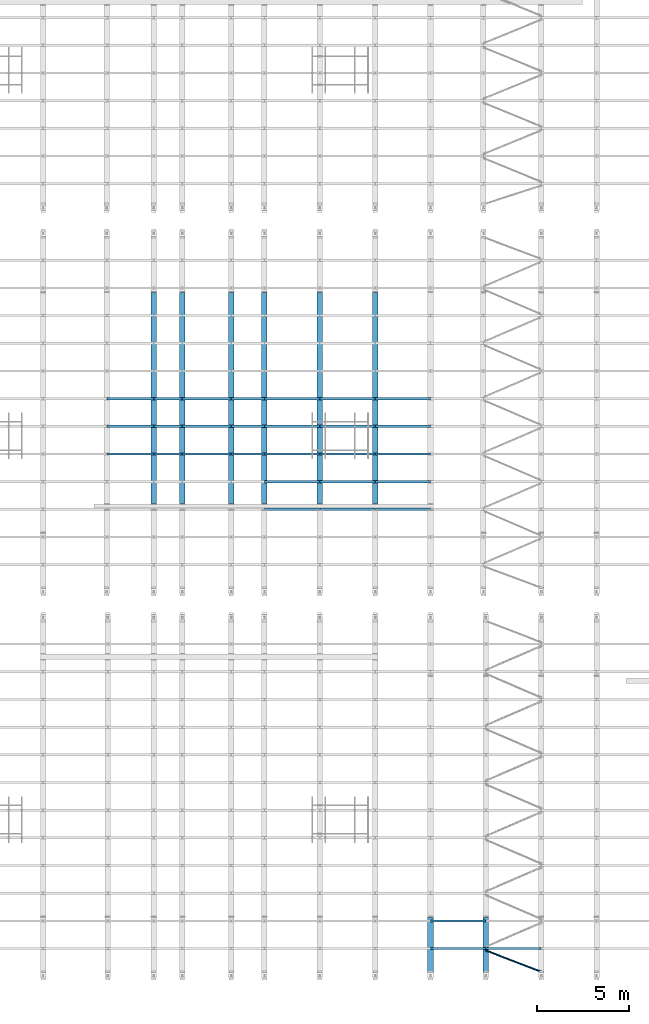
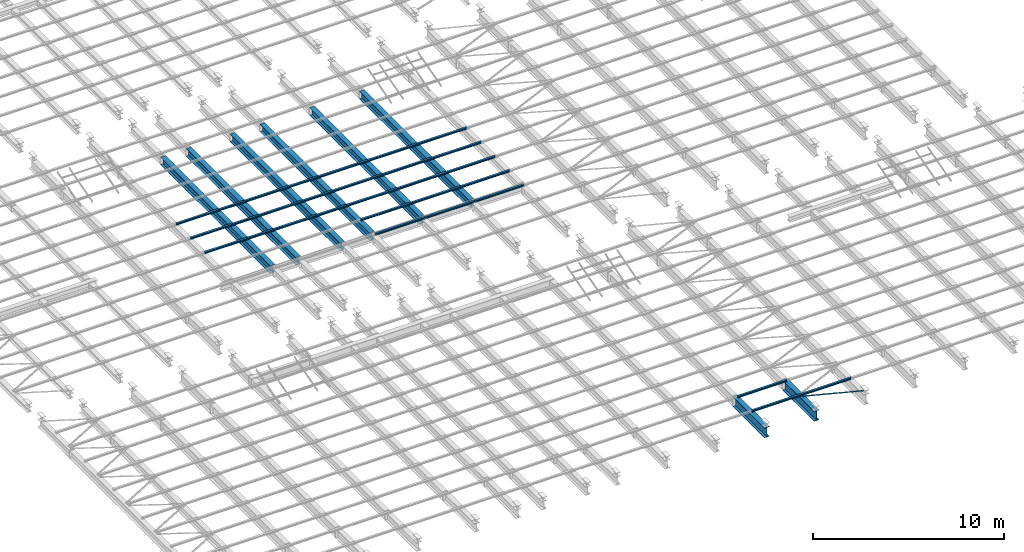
# One storey, part 43 of 139: 39 beams.
"""IFC2X3 building model written with IfcOpenShell, lengths in metres."""

from ifc_helpers import new_model, entity, si_unit, converted_unit, derived_unit, frame, origin, place, context, subcontext, project, spatial, polyline, outline, extrude, material, element, save


model = new_model("IFC2X3")

# Units and contexts
model_context = context("Model", 3, precision=1e-05, world=origin())
body_context = subcontext(model_context, "Body", "Model", "MODEL_VIEW")
ifc_project = project(units=[si_unit("LENGTHUNIT", "METRE"), si_unit("AREAUNIT", "SQUARE_METRE"), si_unit("VOLUMEUNIT", "CUBIC_METRE"), si_unit("MASSUNIT", "GRAM", prefix="KILO"), converted_unit("PLANEANGLEUNIT", "DEGREE", entity("IfcPlaneAngleMeasure", 0.0174532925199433), si_unit("PLANEANGLEUNIT", "RADIAN"), dimensions=[0, 0, 0, 0, 0, 0, 0]), derived_unit("THERMALTRANSMITTANCEUNIT", [(si_unit("POWERUNIT", "WATT"), 1), (si_unit("THERMODYNAMICTEMPERATUREUNIT", "KELVIN"), -1), (si_unit("LENGTHUNIT", "METRE"), -2)]), derived_unit("VOLUMETRICFLOWRATEUNIT", [(si_unit("LENGTHUNIT", "METRE"), 3), (converted_unit("TIMEUNIT", "hour", entity("IfcTimeMeasure", 3600.0), si_unit("TIMEUNIT", "SECOND"), dimensions=[0, 0, 1, 0, 0, 0, 0]), -1), (si_unit("LENGTHUNIT", "METRE"), -1)])], contexts=[model_context])

# Site, building, storey
site_placement = place(None, origin())
site = spatial("IfcSite", under=ifc_project, at=site_placement, Name="TWP_Speiseverteilzentrum SBW VZ II", CompositionType="ELEMENT")
building_placement = place(site_placement, origin())
building = spatial("IfcBuilding", under=site, at=building_placement, Name="Speiseverteilzentrum SBW VZ II", CompositionType="ELEMENT")
storey_placement = place(building_placement, frame((0.0, 0.0, 7.1307)))
storey = spatial("IfcBuildingStorey", under=building, at=storey_placement, Name="Wartung_FFB", CompositionType="ELEMENT", Elevation=7.1307)

# Beams
ifc_material_1 = material(Name="S235")
beam_1_placement = place(storey_placement, frame((28.0500000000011, 47.7070000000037, -0.435), z_axis=(0.0, 0.0, 1.0), x_axis=(-1.0, 0.0, 0.0)))
element("IfcBeam", 1, at=beam_1_placement, inside=storey, material=ifc_material_1, Name="Stahlträger", context=body_context, shape_type="SweptSolid", body=[
    extrude(outline(polyline([(-0.15, 0.245), (-0.15, 0.222), (-0.00599999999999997, 0.222), (-0.006, -0.222), (-0.15, -0.222), (-0.15, -0.245), (0.15, -0.245), (0.15, -0.222), (0.00600000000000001, -0.222), (0.00600000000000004, 0.222), (0.15, 0.222), (0.15, 0.245), (-0.15, 0.245)])), frame((0.0, 0.0, 0.0), z_axis=(0.0, 1.0, 0.0), x_axis=(-1.0, 0.0, 0.0)), (0.0, 0.0, 1.0), 11.4521521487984),
])
ifc_material_2 = material(Name="S235")
beam_2_placement = place(storey_placement, frame((34.0500000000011, 47.7070000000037, -0.435), z_axis=(0.0, 0.0, 1.0), x_axis=(-1.0, 0.0, 0.0)))
element("IfcBeam", 2, at=beam_2_placement, inside=storey, material=ifc_material_2, Name="Stahlträger", context=body_context, shape_type="SweptSolid", body=[
    extrude(outline(polyline([(-0.15, 0.245), (-0.15, 0.222), (-0.00599999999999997, 0.222), (-0.006, -0.222), (-0.15, -0.222), (-0.15, -0.245), (0.15, -0.245), (0.15, -0.222), (0.00600000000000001, -0.222), (0.00600000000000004, 0.222), (0.15, 0.222), (0.15, 0.245), (-0.15, 0.245)])), frame((0.0, 0.0, 0.0), z_axis=(0.0, 1.0, 0.0), x_axis=(-1.0, 0.0, 0.0)), (0.0, 0.0, 1.0), 11.4521521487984),
])
ifc_material_3 = material(Name="S235")
beam_3_placement = place(storey_placement, frame((37.0500000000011, 47.7070000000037, -0.435), z_axis=(0.0, 0.0, 1.0), x_axis=(-1.0, 0.0, 0.0)))
element("IfcBeam", 3, at=beam_3_placement, inside=storey, material=ifc_material_3, Name="Stahlträger", context=body_context, shape_type="SweptSolid", body=[
    extrude(outline(polyline([(-0.15, 0.245), (-0.15, 0.222), (-0.00599999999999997, 0.222), (-0.006, -0.222), (-0.15, -0.222), (-0.15, -0.245), (0.15, -0.245), (0.15, -0.222), (0.00600000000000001, -0.222), (0.00600000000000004, 0.222), (0.15, 0.222), (0.15, 0.245), (-0.15, 0.245)])), frame((0.0, 0.0, 0.0), z_axis=(0.0, 1.0, 0.0), x_axis=(-1.0, 0.0, 0.0)), (0.0, 0.0, 1.0), 11.4521521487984),
])
ifc_material_4 = material(Name="S235")
beam_4_placement = place(storey_placement, frame((40.0500000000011, 47.7070000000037, -0.435), z_axis=(0.0, 0.0, 1.0), x_axis=(-1.0, 0.0, 0.0)))
element("IfcBeam", 4, at=beam_4_placement, inside=storey, material=ifc_material_4, Name="Stahlträger", context=body_context, shape_type="SweptSolid", body=[
    extrude(outline(polyline([(-0.15, 0.245), (-0.15, 0.222), (-0.00599999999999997, 0.222), (-0.006, -0.222), (-0.15, -0.222), (-0.15, -0.245), (0.15, -0.245), (0.15, -0.222), (0.00600000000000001, -0.222), (0.00600000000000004, 0.222), (0.15, 0.222), (0.15, 0.245), (-0.15, 0.245)])), frame((0.0, 0.0, 0.0), z_axis=(0.0, 1.0, 0.0), x_axis=(-1.0, 0.0, 0.0)), (0.0, 0.0, 1.0), 11.4521521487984),
])
ifc_material_5 = material(Name="S235")
beam_5_placement = place(storey_placement, frame((32.2500000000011, 47.7070000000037, -0.435), z_axis=(0.0, 0.0, 1.0), x_axis=(-1.0, 0.0, 0.0)))
element("IfcBeam", 5, at=beam_5_placement, inside=storey, material=ifc_material_5, Name="Stahlträger", context=body_context, shape_type="SweptSolid", body=[
    extrude(outline(polyline([(-0.15, 0.245), (-0.15, 0.222), (-0.00599999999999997, 0.222), (-0.006, -0.222), (-0.15, -0.222), (-0.15, -0.245), (0.15, -0.245), (0.15, -0.222), (0.00600000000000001, -0.222), (0.00600000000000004, 0.222), (0.15, 0.222), (0.15, 0.245), (-0.15, 0.245)])), frame((0.0, 0.0, 0.0), z_axis=(0.0, 1.0, 0.0), x_axis=(-1.0, 0.0, 0.0)), (0.0, 0.0, 1.0), 11.4521521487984),
])
ifc_material_6 = material(Name="S235")
beam_6_placement = place(storey_placement, frame((29.6000000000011, 47.7070000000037, -0.435), z_axis=(0.0, 0.0, 1.0), x_axis=(-1.0, 0.0, 0.0)))
element("IfcBeam", 6, at=beam_6_placement, inside=storey, material=ifc_material_6, Name="Stahlträger", context=body_context, shape_type="SweptSolid", body=[
    extrude(outline(polyline([(-0.15, 0.245), (-0.15, 0.222), (-0.00599999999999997, 0.222), (-0.006, -0.222), (-0.15, -0.222), (-0.15, -0.245), (0.15, -0.245), (0.15, -0.222), (0.00600000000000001, -0.222), (0.00600000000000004, 0.222), (0.15, 0.222), (0.15, 0.245), (-0.15, 0.245)])), frame((0.0, 0.0, 0.0), z_axis=(0.0, 1.0, 0.0), x_axis=(-1.0, 0.0, 0.0)), (0.0, 0.0, 1.0), 11.4521521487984),
])
ifc_material_7 = material(Name="S235")
beam_7_placement = place(storey_placement, frame((43.0500000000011, 13.8380742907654, -0.51), z_axis=(0.0, 0.0, 1.0), x_axis=(-1.0, 0.0, 0.0)))
element("IfcBeam", 7, at=beam_7_placement, inside=storey, material=ifc_material_7, Name="Stahlträger", context=body_context, shape_type="SweptSolid", body=[
    extrude(outline(polyline([(-0.15, 0.32), (-0.15, 0.294), (-0.00675000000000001, 0.294), (-0.00675000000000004, -0.294), (-0.15, -0.294), (-0.15, -0.32), (0.15, -0.32), (0.15, -0.294), (0.00674999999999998, -0.294), (0.00675000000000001, 0.294), (0.15, 0.294), (0.15, 0.32), (-0.15, 0.32)])), frame((0.0, 0.0, 0.0), z_axis=(0.0, 1.0, 0.0), x_axis=(-1.0, 0.0, 0.0)), (0.0, 0.0, 1.0), 3.29792570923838),
])
ifc_material_8 = material(Name="S235")
beam_8_placement = place(storey_placement, frame((46.0500000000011, 13.8380742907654, -0.51), z_axis=(0.0, 0.0, 1.0), x_axis=(-1.0, 0.0, 0.0)))
element("IfcBeam", 8, at=beam_8_placement, inside=storey, material=ifc_material_8, Name="Stahlträger", context=body_context, shape_type="SweptSolid", body=[
    extrude(outline(polyline([(-0.15, 0.32), (-0.15, 0.294), (-0.00675000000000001, 0.294), (-0.00675000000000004, -0.294), (-0.15, -0.294), (-0.15, -0.32), (0.15, -0.32), (0.15, -0.294), (0.00674999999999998, -0.294), (0.00675000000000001, 0.294), (0.15, 0.294), (0.15, 0.32), (-0.15, 0.32)])), frame((0.0, 0.0, 0.0), z_axis=(0.0, 1.0, 0.0), x_axis=(-1.0, 0.0, 0.0)), (0.0, 0.0, 1.0), 3.29792570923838),
])
ifc_material_9 = material(Name="S235")
beam_9_placement = place(storey_placement, frame((34.0600000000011, 41.9500000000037, -0.133), z_axis=(0.0, 0.0, 1.0), x_axis=(0.0, -1.0, 0.0)))
element("IfcBeam", 9, at=beam_9_placement, inside=storey, material=ifc_material_9, Name="Nebenträger", context=body_context, shape_type="SweptSolid", body=[
    extrude(outline(polyline([(-0.06, 0.0570000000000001), (-0.06, 0.0490000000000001), (-0.00249999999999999, 0.0490000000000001), (-0.0025, -0.0489999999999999), (-0.06, -0.0489999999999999), (-0.06, -0.0569999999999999), (0.06, -0.0569999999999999), (0.06, -0.0489999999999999), (0.0025, -0.0489999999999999), (0.00250000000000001, 0.0490000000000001), (0.06, 0.0490000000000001), (0.06, 0.0570000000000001), (-0.06, 0.0570000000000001)])), frame((0.0, 0.0, 0.0), z_axis=(0.0, 1.0, 0.0), x_axis=(-1.0, 0.0, 0.0)), (0.0, 0.0, 1.0), 2.98),
])
ifc_material_10 = material(Name="S235")
beam_10_placement = place(storey_placement, frame((37.0600000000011, 41.9500000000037, -0.133), z_axis=(0.0, 0.0, 1.0), x_axis=(0.0, -1.0, 0.0)))
element("IfcBeam", 10, at=beam_10_placement, inside=storey, material=ifc_material_10, Name="Nebenträger", context=body_context, shape_type="SweptSolid", body=[
    extrude(outline(polyline([(-0.06, 0.0570000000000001), (-0.06, 0.0490000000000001), (-0.00249999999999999, 0.0490000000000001), (-0.0025, -0.0489999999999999), (-0.06, -0.0489999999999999), (-0.06, -0.0569999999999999), (0.06, -0.0569999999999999), (0.06, -0.0489999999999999), (0.0025, -0.0489999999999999), (0.00250000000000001, 0.0490000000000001), (0.06, 0.0490000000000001), (0.06, 0.0570000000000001), (-0.06, 0.0570000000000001)])), frame((0.0, 0.0, 0.0), z_axis=(0.0, 1.0, 0.0), x_axis=(-1.0, 0.0, 0.0)), (0.0, 0.0, 1.0), 2.98),
])
ifc_material_11 = material(Name="S235")
beam_11_placement = place(storey_placement, frame((40.0600000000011, 41.9500000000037, -0.133), z_axis=(0.0, 0.0, 1.0), x_axis=(0.0, -1.0, 0.0)))
element("IfcBeam", 11, at=beam_11_placement, inside=storey, material=ifc_material_11, Name="Nebenträger", context=body_context, shape_type="SweptSolid", body=[
    extrude(outline(polyline([(-0.06, 0.0570000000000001), (-0.06, 0.0490000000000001), (-0.00249999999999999, 0.0490000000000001), (-0.0025, -0.0489999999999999), (-0.06, -0.0489999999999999), (-0.06, -0.0569999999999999), (0.06, -0.0569999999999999), (0.06, -0.0489999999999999), (0.0025, -0.0489999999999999), (0.00250000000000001, 0.0490000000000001), (0.06, 0.0490000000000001), (0.06, 0.0570000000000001), (-0.06, 0.0570000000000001)])), frame((0.0, 0.0, 0.0), z_axis=(0.0, 1.0, 0.0), x_axis=(-1.0, 0.0, 0.0)), (0.0, 0.0, 1.0), 2.98),
])
ifc_material_12 = material(Name="S235")
beam_12_placement = place(storey_placement, frame((34.0600000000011, 40.4500000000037, -0.133), z_axis=(0.0, 0.0, 1.0), x_axis=(0.0, -1.0, 0.0)))
element("IfcBeam", 12, at=beam_12_placement, inside=storey, material=ifc_material_12, Name="Nebenträger", context=body_context, shape_type="SweptSolid", body=[
    extrude(outline(polyline([(-0.06, 0.0570000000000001), (-0.06, 0.0490000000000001), (-0.00249999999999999, 0.0490000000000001), (-0.0025, -0.0489999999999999), (-0.06, -0.0489999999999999), (-0.06, -0.0569999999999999), (0.06, -0.0569999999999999), (0.06, -0.0489999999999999), (0.0025, -0.0489999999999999), (0.00250000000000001, 0.0490000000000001), (0.06, 0.0490000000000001), (0.06, 0.0570000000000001), (-0.06, 0.0570000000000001)])), frame((0.0, 0.0, 0.0), z_axis=(0.0, 1.0, 0.0), x_axis=(-1.0, 0.0, 0.0)), (0.0, 0.0, 1.0), 2.98),
])
ifc_material_13 = material(Name="S235")
beam_13_placement = place(storey_placement, frame((37.0600000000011, 40.4500000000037, -0.133), z_axis=(0.0, 0.0, 1.0), x_axis=(0.0, -1.0, 0.0)))
element("IfcBeam", 13, at=beam_13_placement, inside=storey, material=ifc_material_13, Name="Nebenträger", context=body_context, shape_type="SweptSolid", body=[
    extrude(outline(polyline([(-0.06, 0.0570000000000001), (-0.06, 0.0490000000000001), (-0.00249999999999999, 0.0490000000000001), (-0.0025, -0.0489999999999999), (-0.06, -0.0489999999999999), (-0.06, -0.0569999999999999), (0.06, -0.0569999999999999), (0.06, -0.0489999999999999), (0.0025, -0.0489999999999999), (0.00250000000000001, 0.0490000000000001), (0.06, 0.0490000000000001), (0.06, 0.0570000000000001), (-0.06, 0.0570000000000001)])), frame((0.0, 0.0, 0.0), z_axis=(0.0, 1.0, 0.0), x_axis=(-1.0, 0.0, 0.0)), (0.0, 0.0, 1.0), 2.98),
])
ifc_material_14 = material(Name="S235")
beam_14_placement = place(storey_placement, frame((40.0600000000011, 40.4500000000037, -0.133), z_axis=(0.0, 0.0, 1.0), x_axis=(0.0, -1.0, 0.0)))
element("IfcBeam", 14, at=beam_14_placement, inside=storey, material=ifc_material_14, Name="Nebenträger", context=body_context, shape_type="SweptSolid", body=[
    extrude(outline(polyline([(-0.06, 0.0570000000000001), (-0.06, 0.0490000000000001), (-0.00249999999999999, 0.0490000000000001), (-0.0025, -0.0489999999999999), (-0.06, -0.0489999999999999), (-0.06, -0.0569999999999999), (0.06, -0.0569999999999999), (0.06, -0.0489999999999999), (0.0025, -0.0489999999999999), (0.00250000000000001, 0.0490000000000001), (0.06, 0.0490000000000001), (0.06, 0.0570000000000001), (-0.06, 0.0570000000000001)])), frame((0.0, 0.0, 0.0), z_axis=(0.0, 1.0, 0.0), x_axis=(-1.0, 0.0, 0.0)), (0.0, 0.0, 1.0), 2.98),
])
ifc_material_15 = material(Name="S235")
beam_15_placement = place(storey_placement, frame((34.0600000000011, 38.9500000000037, -0.133), z_axis=(0.0, 0.0, 1.0), x_axis=(0.0, -1.0, 0.0)))
element("IfcBeam", 15, at=beam_15_placement, inside=storey, material=ifc_material_15, Name="Nebenträger", context=body_context, shape_type="SweptSolid", body=[
    extrude(outline(polyline([(-0.06, 0.0570000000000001), (-0.06, 0.0490000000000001), (-0.00249999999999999, 0.0490000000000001), (-0.0025, -0.0489999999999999), (-0.06, -0.0489999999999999), (-0.06, -0.0569999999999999), (0.06, -0.0569999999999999), (0.06, -0.0489999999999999), (0.0025, -0.0489999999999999), (0.00250000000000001, 0.0490000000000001), (0.06, 0.0490000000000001), (0.06, 0.0570000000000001), (-0.06, 0.0570000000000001)])), frame((0.0, 0.0, 0.0), z_axis=(0.0, 1.0, 0.0), x_axis=(-1.0, 0.0, 0.0)), (0.0, 0.0, 1.0), 2.98),
])
ifc_material_16 = material(Name="S235")
beam_16_placement = place(storey_placement, frame((37.0600000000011, 38.9500000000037, -0.133), z_axis=(0.0, 0.0, 1.0), x_axis=(0.0, -1.0, 0.0)))
element("IfcBeam", 16, at=beam_16_placement, inside=storey, material=ifc_material_16, Name="Nebenträger", context=body_context, shape_type="SweptSolid", body=[
    extrude(outline(polyline([(-0.06, 0.0570000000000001), (-0.06, 0.0490000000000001), (-0.00249999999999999, 0.0490000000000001), (-0.0025, -0.0489999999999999), (-0.06, -0.0489999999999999), (-0.06, -0.0569999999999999), (0.06, -0.0569999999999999), (0.06, -0.0489999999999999), (0.0025, -0.0489999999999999), (0.00250000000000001, 0.0490000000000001), (0.06, 0.0490000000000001), (0.06, 0.0570000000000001), (-0.06, 0.0570000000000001)])), frame((0.0, 0.0, 0.0), z_axis=(0.0, 1.0, 0.0), x_axis=(-1.0, 0.0, 0.0)), (0.0, 0.0, 1.0), 2.98),
])
ifc_material_17 = material(Name="S235")
beam_17_placement = place(storey_placement, frame((40.0600000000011, 38.9500000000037, -0.133), z_axis=(0.0, 0.0, 1.0), x_axis=(0.0, -1.0, 0.0)))
element("IfcBeam", 17, at=beam_17_placement, inside=storey, material=ifc_material_17, Name="Nebenträger", context=body_context, shape_type="SweptSolid", body=[
    extrude(outline(polyline([(-0.06, 0.0570000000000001), (-0.06, 0.0490000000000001), (-0.00249999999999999, 0.0490000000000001), (-0.0025, -0.0489999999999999), (-0.06, -0.0489999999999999), (-0.06, -0.0569999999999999), (0.06, -0.0569999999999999), (0.06, -0.0489999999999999), (0.0025, -0.0489999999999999), (0.00250000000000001, 0.0490000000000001), (0.06, 0.0490000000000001), (0.06, 0.0570000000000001), (-0.06, 0.0570000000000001)])), frame((0.0, 0.0, 0.0), z_axis=(0.0, 1.0, 0.0), x_axis=(-1.0, 0.0, 0.0)), (0.0, 0.0, 1.0), 2.98),
])
ifc_material_18 = material(Name="S235")
beam_18_placement = place(storey_placement, frame((34.0600000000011, 37.4500000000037, -0.133), z_axis=(0.0, 0.0, 1.0), x_axis=(0.0, -1.0, 0.0)))
element("IfcBeam", 18, at=beam_18_placement, inside=storey, material=ifc_material_18, Name="Nebenträger", context=body_context, shape_type="SweptSolid", body=[
    extrude(outline(polyline([(-0.06, 0.0570000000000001), (-0.06, 0.0490000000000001), (-0.00249999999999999, 0.0490000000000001), (-0.0025, -0.0489999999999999), (-0.06, -0.0489999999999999), (-0.06, -0.0569999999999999), (0.06, -0.0569999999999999), (0.06, -0.0489999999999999), (0.0025, -0.0489999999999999), (0.00250000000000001, 0.0490000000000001), (0.06, 0.0490000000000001), (0.06, 0.0570000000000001), (-0.06, 0.0570000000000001)])), frame((0.0, 0.0, 0.0), z_axis=(0.0, 1.0, 0.0), x_axis=(-1.0, 0.0, 0.0)), (0.0, 0.0, 1.0), 2.98),
])
ifc_material_19 = material(Name="S235")
beam_19_placement = place(storey_placement, frame((37.0600000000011, 37.4500000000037, -0.133), z_axis=(0.0, 0.0, 1.0), x_axis=(0.0, -1.0, 0.0)))
element("IfcBeam", 19, at=beam_19_placement, inside=storey, material=ifc_material_19, Name="Nebenträger", context=body_context, shape_type="SweptSolid", body=[
    extrude(outline(polyline([(-0.06, 0.0570000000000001), (-0.06, 0.0490000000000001), (-0.00249999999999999, 0.0490000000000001), (-0.0025, -0.0489999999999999), (-0.06, -0.0489999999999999), (-0.06, -0.0569999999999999), (0.06, -0.0569999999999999), (0.06, -0.0489999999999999), (0.0025, -0.0489999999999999), (0.00250000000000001, 0.0490000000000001), (0.06, 0.0490000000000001), (0.06, 0.0570000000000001), (-0.06, 0.0570000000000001)])), frame((0.0, 0.0, 0.0), z_axis=(0.0, 1.0, 0.0), x_axis=(-1.0, 0.0, 0.0)), (0.0, 0.0, 1.0), 2.98),
])
ifc_material_20 = material(Name="S235")
beam_20_placement = place(storey_placement, frame((40.0600000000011, 37.4500000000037, -0.133), z_axis=(0.0, 0.0, 1.0), x_axis=(0.0, -1.0, 0.0)))
element("IfcBeam", 20, at=beam_20_placement, inside=storey, material=ifc_material_20, Name="Nebenträger", context=body_context, shape_type="SweptSolid", body=[
    extrude(outline(polyline([(-0.06, 0.0570000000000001), (-0.06, 0.0490000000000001), (-0.00249999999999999, 0.0490000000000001), (-0.0025, -0.0489999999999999), (-0.06, -0.0489999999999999), (-0.06, -0.0569999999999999), (0.06, -0.0569999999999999), (0.06, -0.0489999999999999), (0.0025, -0.0489999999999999), (0.00250000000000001, 0.0490000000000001), (0.06, 0.0490000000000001), (0.06, 0.0570000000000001), (-0.06, 0.0570000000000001)])), frame((0.0, 0.0, 0.0), z_axis=(0.0, 1.0, 0.0), x_axis=(-1.0, 0.0, 0.0)), (0.0, 0.0, 1.0), 2.98),
])
ifc_material_21 = material(Name="S235")
beam_21_placement = place(storey_placement, frame((34.0600000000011, 35.9500000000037, -0.133), z_axis=(0.0, 0.0, 1.0), x_axis=(0.0, -1.0, 0.0)))
element("IfcBeam", 21, at=beam_21_placement, inside=storey, material=ifc_material_21, Name="Nebenträger", context=body_context, shape_type="SweptSolid", body=[
    extrude(outline(polyline([(-0.06, 0.0570000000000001), (-0.06, 0.0490000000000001), (-0.00249999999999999, 0.0490000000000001), (-0.0025, -0.0489999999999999), (-0.06, -0.0489999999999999), (-0.06, -0.0569999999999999), (0.06, -0.0569999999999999), (0.06, -0.0489999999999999), (0.0025, -0.0489999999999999), (0.00250000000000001, 0.0490000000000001), (0.06, 0.0490000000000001), (0.06, 0.0570000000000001), (-0.06, 0.0570000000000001)])), frame((0.0, 0.0, 0.0), z_axis=(0.0, 1.0, 0.0), x_axis=(-1.0, 0.0, 0.0)), (0.0, 0.0, 1.0), 2.98),
])
ifc_material_22 = material(Name="S235")
beam_22_placement = place(storey_placement, frame((37.0600000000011, 35.9500000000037, -0.133), z_axis=(0.0, 0.0, 1.0), x_axis=(0.0, -1.0, 0.0)))
element("IfcBeam", 22, at=beam_22_placement, inside=storey, material=ifc_material_22, Name="Nebenträger", context=body_context, shape_type="SweptSolid", body=[
    extrude(outline(polyline([(-0.06, 0.0570000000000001), (-0.06, 0.0490000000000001), (-0.00249999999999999, 0.0490000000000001), (-0.0025, -0.0489999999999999), (-0.06, -0.0489999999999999), (-0.06, -0.0569999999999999), (0.06, -0.0569999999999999), (0.06, -0.0489999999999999), (0.0025, -0.0489999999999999), (0.00250000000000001, 0.0490000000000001), (0.06, 0.0490000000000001), (0.06, 0.0570000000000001), (-0.06, 0.0570000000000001)])), frame((0.0, 0.0, 0.0), z_axis=(0.0, 1.0, 0.0), x_axis=(-1.0, 0.0, 0.0)), (0.0, 0.0, 1.0), 2.98),
])
ifc_material_23 = material(Name="S235")
beam_23_placement = place(storey_placement, frame((40.0600000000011, 35.9500000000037, -0.133), z_axis=(0.0, 0.0, 1.0), x_axis=(0.0, -1.0, 0.0)))
element("IfcBeam", 23, at=beam_23_placement, inside=storey, material=ifc_material_23, Name="Nebenträger", context=body_context, shape_type="SweptSolid", body=[
    extrude(outline(polyline([(-0.06, 0.0570000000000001), (-0.06, 0.0490000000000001), (-0.00249999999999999, 0.0490000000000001), (-0.0025, -0.0489999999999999), (-0.06, -0.0489999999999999), (-0.06, -0.0569999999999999), (0.06, -0.0569999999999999), (0.06, -0.0489999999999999), (0.0025, -0.0489999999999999), (0.00250000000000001, 0.0490000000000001), (0.06, 0.0490000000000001), (0.06, 0.0570000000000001), (-0.06, 0.0570000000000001)])), frame((0.0, 0.0, 0.0), z_axis=(0.0, 1.0, 0.0), x_axis=(-1.0, 0.0, 0.0)), (0.0, 0.0, 1.0), 2.98),
])
ifc_material_24 = material(Name="S235")
beam_24_placement = place(storey_placement, frame((43.0600000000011, 13.6450742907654, -0.133), z_axis=(0.0, 0.0, 1.0), x_axis=(0.0, -1.0, 0.0)))
element("IfcBeam", 24, at=beam_24_placement, inside=storey, material=ifc_material_24, Name="Nebenträger", context=body_context, shape_type="SweptSolid", body=[
    extrude(outline(polyline([(-0.06, 0.0570000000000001), (-0.06, 0.0490000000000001), (-0.00249999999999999, 0.0490000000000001), (-0.0025, -0.0489999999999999), (-0.06, -0.0489999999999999), (-0.06, -0.0569999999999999), (0.06, -0.0569999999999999), (0.06, -0.0489999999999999), (0.0025, -0.0489999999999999), (0.00250000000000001, 0.0490000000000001), (0.06, 0.0490000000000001), (0.06, 0.0570000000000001), (-0.06, 0.0570000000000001)])), frame((0.0, 0.0, 0.0), z_axis=(0.0, 1.0, 0.0), x_axis=(-1.0, 0.0, 0.0)), (0.0, 0.0, 1.0), 2.98),
])
ifc_material_25 = material(Name="S235")
beam_25_placement = place(storey_placement, frame((43.0600000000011, 12.1450742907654, -0.133), z_axis=(0.0, 0.0, 1.0), x_axis=(0.0, -1.0, 0.0)))
element("IfcBeam", 25, at=beam_25_placement, inside=storey, material=ifc_material_25, Name="Nebenträger", context=body_context, shape_type="SweptSolid", body=[
    extrude(outline(polyline([(-0.06, 0.0570000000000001), (-0.06, 0.0490000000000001), (-0.00249999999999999, 0.0490000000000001), (-0.0025, -0.0489999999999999), (-0.06, -0.0489999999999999), (-0.06, -0.0569999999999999), (0.06, -0.0569999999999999), (0.06, -0.0489999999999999), (0.0025, -0.0489999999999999), (0.00250000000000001, 0.0490000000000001), (0.06, 0.0490000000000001), (0.06, 0.0570000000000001), (-0.06, 0.0570000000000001)])), frame((0.0, 0.0, 0.0), z_axis=(0.0, 1.0, 0.0), x_axis=(-1.0, 0.0, 0.0)), (0.0, 0.0, 1.0), 2.98),
])
ifc_material_26 = material(Name="S235")
beam_26_placement = place(storey_placement, frame((46.0600000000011, 12.1450742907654, -0.133), z_axis=(0.0, 0.0, 1.0), x_axis=(0.0, -1.0, 0.0)))
element("IfcBeam", 26, at=beam_26_placement, inside=storey, material=ifc_material_26, Name="Nebenträger", context=body_context, shape_type="SweptSolid", body=[
    extrude(outline(polyline([(-0.06, 0.0570000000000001), (-0.06, 0.0490000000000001), (-0.00249999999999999, 0.0490000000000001), (-0.0025, -0.0489999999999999), (-0.06, -0.0489999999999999), (-0.06, -0.0569999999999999), (0.06, -0.0569999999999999), (0.06, -0.0489999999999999), (0.0025, -0.0489999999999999), (0.00250000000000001, 0.0490000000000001), (0.06, 0.0490000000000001), (0.06, 0.0570000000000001), (-0.06, 0.0570000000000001)])), frame((0.0, 0.0, 0.0), z_axis=(0.0, 1.0, 0.0), x_axis=(-1.0, 0.0, 0.0)), (0.0, 0.0, 1.0), 2.98),
])
ifc_material_27 = material(Name="S235")
beam_27_placement = place(storey_placement, frame((32.2600000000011, 41.9500000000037, -0.133), z_axis=(0.0, 0.0, 1.0), x_axis=(0.0, -1.0, 0.0)))
element("IfcBeam", 27, at=beam_27_placement, inside=storey, material=ifc_material_27, Name="Nebenträger", context=body_context, shape_type="SweptSolid", body=[
    extrude(outline(polyline([(-0.06, 0.0570000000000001), (-0.06, 0.0490000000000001), (-0.00249999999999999, 0.0490000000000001), (-0.0025, -0.0489999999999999), (-0.06, -0.0489999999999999), (-0.06, -0.0569999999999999), (0.06, -0.0569999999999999), (0.06, -0.0489999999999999), (0.0025, -0.0489999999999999), (0.00250000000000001, 0.0490000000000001), (0.06, 0.0490000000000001), (0.06, 0.0570000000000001), (-0.06, 0.0570000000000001)])), frame((0.0, 0.0, 0.0), z_axis=(0.0, 1.0, 0.0), x_axis=(-1.0, 0.0, 0.0)), (0.0, 0.0, 1.0), 1.78),
])
ifc_material_28 = material(Name="S235")
beam_28_placement = place(storey_placement, frame((32.2600000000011, 40.4500000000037, -0.133), z_axis=(0.0, 0.0, 1.0), x_axis=(0.0, -1.0, 0.0)))
element("IfcBeam", 28, at=beam_28_placement, inside=storey, material=ifc_material_28, Name="Nebenträger", context=body_context, shape_type="SweptSolid", body=[
    extrude(outline(polyline([(-0.06, 0.0570000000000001), (-0.06, 0.0490000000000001), (-0.00249999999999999, 0.0490000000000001), (-0.0025, -0.0489999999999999), (-0.06, -0.0489999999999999), (-0.06, -0.0569999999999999), (0.06, -0.0569999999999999), (0.06, -0.0489999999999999), (0.0025, -0.0489999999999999), (0.00250000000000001, 0.0490000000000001), (0.06, 0.0490000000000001), (0.06, 0.0570000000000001), (-0.06, 0.0570000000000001)])), frame((0.0, 0.0, 0.0), z_axis=(0.0, 1.0, 0.0), x_axis=(-1.0, 0.0, 0.0)), (0.0, 0.0, 1.0), 1.78),
])
ifc_material_29 = material(Name="S235")
beam_29_placement = place(storey_placement, frame((32.2600000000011, 38.9500000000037, -0.133), z_axis=(0.0, 0.0, 1.0), x_axis=(0.0, -1.0, 0.0)))
element("IfcBeam", 29, at=beam_29_placement, inside=storey, material=ifc_material_29, Name="Nebenträger", context=body_context, shape_type="SweptSolid", body=[
    extrude(outline(polyline([(-0.06, 0.0570000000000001), (-0.06, 0.0490000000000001), (-0.00249999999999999, 0.0490000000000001), (-0.0025, -0.0489999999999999), (-0.06, -0.0489999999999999), (-0.06, -0.0569999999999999), (0.06, -0.0569999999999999), (0.06, -0.0489999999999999), (0.0025, -0.0489999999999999), (0.00250000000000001, 0.0490000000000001), (0.06, 0.0490000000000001), (0.06, 0.0570000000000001), (-0.06, 0.0570000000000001)])), frame((0.0, 0.0, 0.0), z_axis=(0.0, 1.0, 0.0), x_axis=(-1.0, 0.0, 0.0)), (0.0, 0.0, 1.0), 1.78),
])
ifc_material_30 = material(Name="S235")
beam_30_placement = place(storey_placement, frame((28.0600000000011, 41.9500000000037, -0.133), z_axis=(0.0, 0.0, 1.0), x_axis=(0.0, -1.0, 0.0)))
element("IfcBeam", 30, at=beam_30_placement, inside=storey, material=ifc_material_30, Name="Nebenträger", context=body_context, shape_type="SweptSolid", body=[
    extrude(outline(polyline([(-0.06, 0.0570000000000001), (-0.06, 0.0490000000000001), (-0.00249999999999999, 0.0490000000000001), (-0.0025, -0.0489999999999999), (-0.06, -0.0489999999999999), (-0.06, -0.0569999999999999), (0.06, -0.0569999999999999), (0.06, -0.0489999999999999), (0.0025, -0.0489999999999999), (0.00250000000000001, 0.0490000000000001), (0.06, 0.0490000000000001), (0.06, 0.0570000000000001), (-0.06, 0.0570000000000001)])), frame((0.0, 0.0, 0.0), z_axis=(0.0, 1.0, 0.0), x_axis=(-1.0, 0.0, 0.0)), (0.0, 0.0, 1.0), 1.52999999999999),
])
ifc_material_31 = material(Name="S235")
beam_31_placement = place(storey_placement, frame((28.0600000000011, 40.4500000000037, -0.133), z_axis=(0.0, 0.0, 1.0), x_axis=(0.0, -1.0, 0.0)))
element("IfcBeam", 31, at=beam_31_placement, inside=storey, material=ifc_material_31, Name="Nebenträger", context=body_context, shape_type="SweptSolid", body=[
    extrude(outline(polyline([(-0.06, 0.0570000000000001), (-0.06, 0.0490000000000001), (-0.00249999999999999, 0.0490000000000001), (-0.0025, -0.0489999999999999), (-0.06, -0.0489999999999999), (-0.06, -0.0569999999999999), (0.06, -0.0569999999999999), (0.06, -0.0489999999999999), (0.0025, -0.0489999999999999), (0.00250000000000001, 0.0490000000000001), (0.06, 0.0490000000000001), (0.06, 0.0570000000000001), (-0.06, 0.0570000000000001)])), frame((0.0, 0.0, 0.0), z_axis=(0.0, 1.0, 0.0), x_axis=(-1.0, 0.0, 0.0)), (0.0, 0.0, 1.0), 1.52999999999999),
])
ifc_material_32 = material(Name="S235")
beam_32_placement = place(storey_placement, frame((28.0600000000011, 38.9500000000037, -0.133), z_axis=(0.0, 0.0, 1.0), x_axis=(0.0, -1.0, 0.0)))
element("IfcBeam", 32, at=beam_32_placement, inside=storey, material=ifc_material_32, Name="Nebenträger", context=body_context, shape_type="SweptSolid", body=[
    extrude(outline(polyline([(-0.06, 0.0570000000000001), (-0.06, 0.0490000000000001), (-0.00249999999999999, 0.0490000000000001), (-0.0025, -0.0489999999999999), (-0.06, -0.0489999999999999), (-0.06, -0.0569999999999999), (0.06, -0.0569999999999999), (0.06, -0.0489999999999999), (0.0025, -0.0489999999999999), (0.00250000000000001, 0.0490000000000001), (0.06, 0.0490000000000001), (0.06, 0.0570000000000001), (-0.06, 0.0570000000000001)])), frame((0.0, 0.0, 0.0), z_axis=(0.0, 1.0, 0.0), x_axis=(-1.0, 0.0, 0.0)), (0.0, 0.0, 1.0), 1.52999999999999),
])
ifc_material_33 = material(Name="S235")
beam_33_placement = place(storey_placement, frame((29.6100000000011, 41.9500000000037, -0.133), z_axis=(0.0, 0.0, 1.0), x_axis=(0.0, -1.0, 0.0)))
element("IfcBeam", 33, at=beam_33_placement, inside=storey, material=ifc_material_33, Name="Nebenträger", context=body_context, shape_type="SweptSolid", body=[
    extrude(outline(polyline([(-0.06, 0.0570000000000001), (-0.06, 0.0490000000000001), (-0.00249999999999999, 0.0490000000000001), (-0.0025, -0.0489999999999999), (-0.06, -0.0489999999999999), (-0.06, -0.0569999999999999), (0.06, -0.0569999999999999), (0.06, -0.0489999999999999), (0.0025, -0.0489999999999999), (0.00250000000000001, 0.0490000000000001), (0.06, 0.0490000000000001), (0.06, 0.0570000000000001), (-0.06, 0.0570000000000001)])), frame((0.0, 0.0, 0.0), z_axis=(0.0, 1.0, 0.0), x_axis=(-1.0, 0.0, 0.0)), (0.0, 0.0, 1.0), 2.63000000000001),
])
ifc_material_34 = material(Name="S235")
beam_34_placement = place(storey_placement, frame((29.6100000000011, 40.4500000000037, -0.133), z_axis=(0.0, 0.0, 1.0), x_axis=(0.0, -1.0, 0.0)))
element("IfcBeam", 34, at=beam_34_placement, inside=storey, material=ifc_material_34, Name="Nebenträger", context=body_context, shape_type="SweptSolid", body=[
    extrude(outline(polyline([(-0.06, 0.0570000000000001), (-0.06, 0.0490000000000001), (-0.00249999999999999, 0.0490000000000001), (-0.0025, -0.0489999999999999), (-0.06, -0.0489999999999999), (-0.06, -0.0569999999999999), (0.06, -0.0569999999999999), (0.06, -0.0489999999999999), (0.0025, -0.0489999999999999), (0.00250000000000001, 0.0490000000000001), (0.06, 0.0490000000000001), (0.06, 0.0570000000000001), (-0.06, 0.0570000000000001)])), frame((0.0, 0.0, 0.0), z_axis=(0.0, 1.0, 0.0), x_axis=(-1.0, 0.0, 0.0)), (0.0, 0.0, 1.0), 2.63000000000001),
])
ifc_material_35 = material(Name="S235")
beam_35_placement = place(storey_placement, frame((29.6100000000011, 38.9500000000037, -0.133), z_axis=(0.0, 0.0, 1.0), x_axis=(0.0, -1.0, 0.0)))
element("IfcBeam", 35, at=beam_35_placement, inside=storey, material=ifc_material_35, Name="Nebenträger", context=body_context, shape_type="SweptSolid", body=[
    extrude(outline(polyline([(-0.06, 0.0570000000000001), (-0.06, 0.0490000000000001), (-0.00249999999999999, 0.0490000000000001), (-0.0025, -0.0489999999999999), (-0.06, -0.0489999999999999), (-0.06, -0.0569999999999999), (0.06, -0.0569999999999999), (0.06, -0.0489999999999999), (0.0025, -0.0489999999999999), (0.00250000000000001, 0.0490000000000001), (0.06, 0.0490000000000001), (0.06, 0.0570000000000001), (-0.06, 0.0570000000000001)])), frame((0.0, 0.0, 0.0), z_axis=(0.0, 1.0, 0.0), x_axis=(-1.0, 0.0, 0.0)), (0.0, 0.0, 1.0), 2.63000000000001),
])
ifc_material_36 = material(Name="S235")
beam_36_placement = place(storey_placement, frame((25.5125522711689, 41.9500000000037, -0.133), z_axis=(0.0, 0.0, 1.0), x_axis=(0.0, -1.0, 0.0)))
element("IfcBeam", 36, at=beam_36_placement, inside=storey, material=ifc_material_36, Name="Nebenträger", context=body_context, shape_type="SweptSolid", body=[
    extrude(outline(polyline([(-0.06, 0.0570000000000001), (-0.06, 0.0490000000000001), (-0.00249999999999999, 0.0490000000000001), (-0.0025, -0.0489999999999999), (-0.06, -0.0489999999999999), (-0.06, -0.0569999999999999), (0.06, -0.0569999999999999), (0.06, -0.0489999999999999), (0.0025, -0.0489999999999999), (0.00250000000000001, 0.0490000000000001), (0.06, 0.0490000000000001), (0.06, 0.0570000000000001), (-0.06, 0.0570000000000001)])), frame((0.0, 0.0, 0.0), z_axis=(0.0, 1.0, 0.0), x_axis=(-1.0, 0.0, 0.0)), (0.0, 0.0, 1.0), 2.52744772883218),
])
ifc_material_37 = material(Name="S235")
beam_37_placement = place(storey_placement, frame((25.5125522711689, 40.4500000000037, -0.133), z_axis=(0.0, 0.0, 1.0), x_axis=(0.0, -1.0, 0.0)))
element("IfcBeam", 37, at=beam_37_placement, inside=storey, material=ifc_material_37, Name="Nebenträger", context=body_context, shape_type="SweptSolid", body=[
    extrude(outline(polyline([(-0.06, 0.0570000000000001), (-0.06, 0.0490000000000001), (-0.00249999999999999, 0.0490000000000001), (-0.0025, -0.0489999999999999), (-0.06, -0.0489999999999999), (-0.06, -0.0569999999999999), (0.06, -0.0569999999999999), (0.06, -0.0489999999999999), (0.0025, -0.0489999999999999), (0.00250000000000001, 0.0490000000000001), (0.06, 0.0490000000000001), (0.06, 0.0570000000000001), (-0.06, 0.0570000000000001)])), frame((0.0, 0.0, 0.0), z_axis=(0.0, 1.0, 0.0), x_axis=(-1.0, 0.0, 0.0)), (0.0, 0.0, 1.0), 2.52744772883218),
])
ifc_material_38 = material(Name="S235")
beam_38_placement = place(storey_placement, frame((25.5125522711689, 38.9500000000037, -0.133), z_axis=(0.0, 0.0, 1.0), x_axis=(0.0, -1.0, 0.0)))
element("IfcBeam", 38, at=beam_38_placement, inside=storey, material=ifc_material_38, Name="Nebenträger", context=body_context, shape_type="SweptSolid", body=[
    extrude(outline(polyline([(-0.06, 0.0570000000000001), (-0.06, 0.0490000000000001), (-0.00249999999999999, 0.0490000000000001), (-0.0025, -0.0489999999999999), (-0.06, -0.0489999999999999), (-0.06, -0.0569999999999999), (0.06, -0.0569999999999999), (0.06, -0.0489999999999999), (0.0025, -0.0489999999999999), (0.00250000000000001, 0.0490000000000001), (0.06, 0.0490000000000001), (0.06, 0.0570000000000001), (-0.06, 0.0570000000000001)])), frame((0.0, 0.0, 0.0), z_axis=(0.0, 1.0, 0.0), x_axis=(-1.0, 0.0, 0.0)), (0.0, 0.0, 1.0), 2.52744772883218),
])
ifc_material_39 = material(Name="S235")
beam_39_placement = place(storey_placement, frame((46.0427712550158, 12.0258326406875, -0.167052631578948), z_axis=(0.0, 0.0, 1.0), x_axis=(-0.35947661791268, -0.933154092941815, 0.0)))
element("IfcBeam", 39, at=beam_39_placement, inside=storey, material=ifc_material_39, Name="Kreuzverband", context=body_context, shape_type="SweptSolid", body=[
    extrude(outline(polyline([(0.0570526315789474, -0.0229473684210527), (0.0570526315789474, -0.0149473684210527), (-0.0149473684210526, -0.0149473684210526), (-0.0149473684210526, 0.0570526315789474), (-0.0229473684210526, 0.0570526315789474), (-0.0229473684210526, -0.0229473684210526), (0.0570526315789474, -0.0229473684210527)])), frame((0.0, 0.0, 0.0), z_axis=(0.0, 1.00000000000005, 0.0), x_axis=(-1.0, 0.0, 0.0)), (0.0, 0.0, 1.0), 3.23000000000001),
])

save(model, "model.ifc")
